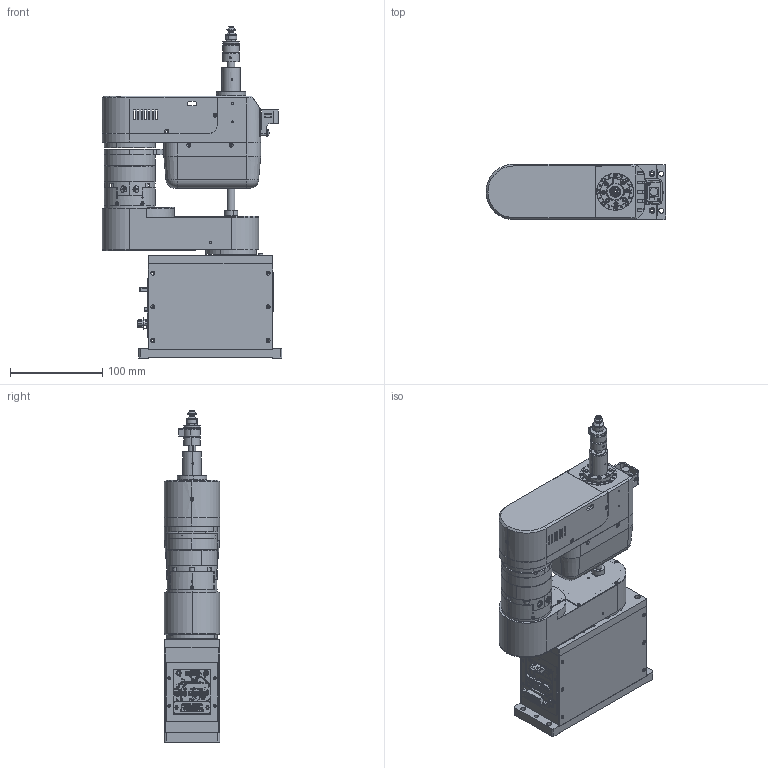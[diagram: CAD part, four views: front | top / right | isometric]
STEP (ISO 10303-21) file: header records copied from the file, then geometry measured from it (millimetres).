
FILE_DESCRIPTION (( 'STEP AP214' ), '1' );
FILE_NAME ('侐粣SCARA-給蚾.STEP', '2026-06-18T10:35:36', ( '' ), ( '' ), 'SwSTEP 2.0', 'SolidWorks 2024', '' );
FILE_SCHEMA (( 'AUTOMOTIVE_DESIGN' ));
Products named in the file (1): 四轴SCARA-倒装
Bounding box: 195 x 60 x 360.08 mm (x, y, z)
Surface area: 269873.9 mm2 (no closed solid volume)
Topology: 0 solids, 271 shells, 1437 faces, 10066 edges, 8847 vertices
Faces by surface type: plane 639, cylinder 551, cone 187, torus 44, sphere 8, bspline 8
Entity records: 108017 total; most frequent: CARTESIAN_POINT 39001, DIRECTION 12262, ORIENTED_EDGE 12239, EDGE_CURVE 10061, VERTEX_POINT 8847, AXIS2_PLACEMENT_3D 4152, LINE 3958, VECTOR 3958
